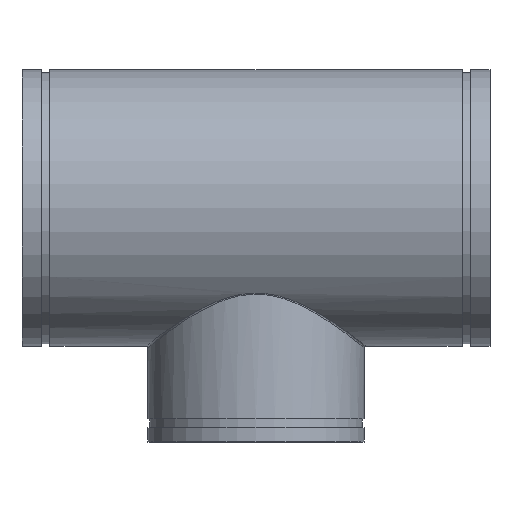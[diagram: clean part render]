
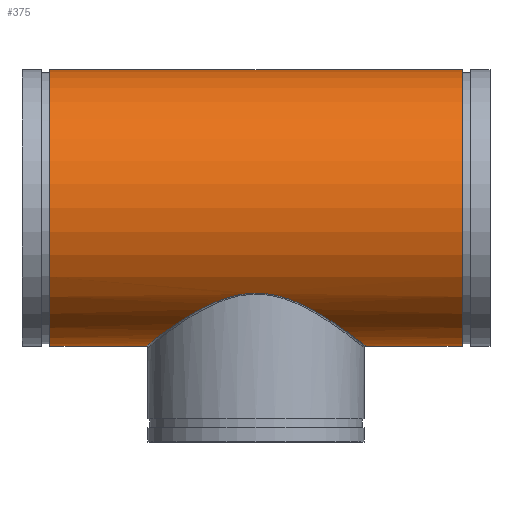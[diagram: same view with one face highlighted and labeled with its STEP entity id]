
A CAD part, top view. The second image highlights one B-rep face of the part: STEP entity #375.
In plain terms, the highlighted cylindrical face has radius 247.65 mm (diameter 495.3 mm), a full revolution.
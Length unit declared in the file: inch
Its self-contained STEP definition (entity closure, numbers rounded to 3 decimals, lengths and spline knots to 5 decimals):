
#54=FACE_BOUND('',#119,.T.);
#65=LINE('',#903,#76);
#76=VECTOR('',#483,9.75);
#87=CYLINDRICAL_SURFACE('',#415,9.75);
#98=FACE_OUTER_BOUND('',#118,.T.);
#118=EDGE_LOOP('',(#266,#267,#268,#269));
#119=EDGE_LOOP('',(#270));
#150=B_SPLINE_CURVE_WITH_KNOTS('',3,(#859,#860,#861,#862,#863,#864,#865,
#866,#867,#868,#869,#870,#871,#872,#873,#874,#875,#876,#877,#878,#879,#880,
#881,#882,#883,#884,#885,#886,#887,#888,#889,#890,#891,#892,#893,#894,#895,
#896,#897,#898),.UNSPECIFIED.,.T.,.F.,(4,1,1,1,1,1,1,1,1,1,1,1,1,1,1,1,
1,1,1,1,1,1,1,1,1,1,1,1,1,1,1,1,1,1,1,1,1,4),(-124.99692,-122.76484,
-120.53275,-116.06857,-111.6044,-107.14022,-101.18799,
-98.21187,-95.23575,-92.25963,-89.28352,
-86.3074,-83.33128,-77.37905,-74.40293,
-71.42681,-68.4507,-65.47458,-62.49846,
-59.52235,-56.54623,-53.57011,-50.59399,
-47.61788,-41.66564,-38.68952,-35.71341,
-32.73729,-29.76117,-26.78506,-23.80894,
-20.83282,-17.8567,-13.39253,-8.92835,
-4.46418,-2.23209,0.),.UNSPECIFIED.);
#154=CIRCLE('',#416,9.75);
#155=CIRCLE('',#417,9.75);
#182=VERTEX_POINT('',#811);
#185=VERTEX_POINT('',#900);
#186=VERTEX_POINT('',#902);
#219=EDGE_CURVE('',#182,#182,#150,.T.);
#220=EDGE_CURVE('',#185,#185,#154,.T.);
#221=EDGE_CURVE('',#185,#186,#65,.T.);
#222=EDGE_CURVE('',#186,#186,#155,.T.);
#266=ORIENTED_EDGE('',*,*,#220,.T.);
#267=ORIENTED_EDGE('',*,*,#221,.T.);
#268=ORIENTED_EDGE('',*,*,#222,.T.);
#269=ORIENTED_EDGE('',*,*,#221,.F.);
#270=ORIENTED_EDGE('',*,*,#219,.F.);
#375=ADVANCED_FACE('',(#98,#54),#87,.T.);
#415=AXIS2_PLACEMENT_3D('',#899,#479,#480);
#416=AXIS2_PLACEMENT_3D('',#901,#481,#482);
#417=AXIS2_PLACEMENT_3D('',#904,#484,#485);
#479=DIRECTION('center_axis',(-1.,0.,0.));
#480=DIRECTION('ref_axis',(0.,-1.,0.));
#481=DIRECTION('center_axis',(1.,0.,0.));
#482=DIRECTION('ref_axis',(0.,-1.,0.));
#483=DIRECTION('',(1.,0.,0.));
#484=DIRECTION('center_axis',(-1.,0.,0.));
#485=DIRECTION('ref_axis',(0.,-1.,0.));
#811=CARTESIAN_POINT('',(0.,-6.01104,-7.67658));
#859=CARTESIAN_POINT('Ctrl Pts',(0.,-6.01104,
-7.67658));
#860=CARTESIAN_POINT('Ctrl Pts',(0.30734,-6.01104,-7.67658));
#861=CARTESIAN_POINT('Ctrl Pts',(0.92157,-6.05757,-7.64048));
#862=CARTESIAN_POINT('Ctrl Pts',(2.10871,-6.31946,-7.42951));
#863=CARTESIAN_POINT('Ctrl Pts',(3.46305,-6.87574,-6.93989));
#864=CARTESIAN_POINT('Ctrl Pts',(4.86907,-7.67592,-6.05823));
#865=CARTESIAN_POINT('Ctrl Pts',(6.19199,-8.5588,-4.77702));
#866=CARTESIAN_POINT('Ctrl Pts',(7.09351,-9.22686,-3.3088));
#867=CARTESIAN_POINT('Ctrl Pts',(7.58958,-9.60589,-1.80496));
#868=CARTESIAN_POINT('Ctrl Pts',(7.7829,-9.75624,-0.61026));
#869=CARTESIAN_POINT('Ctrl Pts',(7.78318,-9.75624,0.61002));
#870=CARTESIAN_POINT('Ctrl Pts',(7.58925,-9.60591,1.80519));
#871=CARTESIAN_POINT('Ctrl Pts',(7.21818,-9.32164,2.93204));
#872=CARTESIAN_POINT('Ctrl Pts',(6.51664,-8.79944,4.30565));
#873=CARTESIAN_POINT('Ctrl Pts',(5.5586,-8.12148,5.45292));
#874=CARTESIAN_POINT('Ctrl Pts',(4.4046,-7.40725,6.35726));
#875=CARTESIAN_POINT('Ctrl Pts',(3.44262,-6.88759,6.91281));
#876=CARTESIAN_POINT('Ctrl Pts',(2.38443,-6.42901,7.33658));
#877=CARTESIAN_POINT('Ctrl Pts',(1.22893,-6.09534,7.61163));
#878=CARTESIAN_POINT('Ctrl Pts',(0.00001,-5.96867,
7.70913));
#879=CARTESIAN_POINT('Ctrl Pts',(-1.22876,-6.09527,7.61167));
#880=CARTESIAN_POINT('Ctrl Pts',(-2.38433,-6.42901,7.3366));
#881=CARTESIAN_POINT('Ctrl Pts',(-3.44256,-6.88756,6.91282));
#882=CARTESIAN_POINT('Ctrl Pts',(-4.40438,-7.4071,6.35743));
#883=CARTESIAN_POINT('Ctrl Pts',(-5.55853,-8.12147,5.45297));
#884=CARTESIAN_POINT('Ctrl Pts',(-6.51666,-8.7994,4.3057));
#885=CARTESIAN_POINT('Ctrl Pts',(-7.2181,-9.32162,2.93212));
#886=CARTESIAN_POINT('Ctrl Pts',(-7.58927,-9.60589,1.80533));
#887=CARTESIAN_POINT('Ctrl Pts',(-7.78309,-9.75623,0.61004));
#888=CARTESIAN_POINT('Ctrl Pts',(-7.78302,-9.75625,-0.60997));
#889=CARTESIAN_POINT('Ctrl Pts',(-7.58945,-9.60591,-1.80515));
#890=CARTESIAN_POINT('Ctrl Pts',(-7.21784,-9.32163,-2.93225));
#891=CARTESIAN_POINT('Ctrl Pts',(-6.6925,-8.92997,-3.96199));
#892=CARTESIAN_POINT('Ctrl Pts',(-5.92774,-8.38223,-5.03261));
#893=CARTESIAN_POINT('Ctrl Pts',(-4.86891,-7.67596,-6.0586));
#894=CARTESIAN_POINT('Ctrl Pts',(-3.46332,-6.87581,-6.93957));
#895=CARTESIAN_POINT('Ctrl Pts',(-2.10858,-6.31942,-7.42966));
#896=CARTESIAN_POINT('Ctrl Pts',(-0.92163,-6.05758,-7.64041));
#897=CARTESIAN_POINT('Ctrl Pts',(-0.30734,-6.01104,-7.67658));
#898=CARTESIAN_POINT('Ctrl Pts',(0.,-6.01104,
-7.67658));
#899=CARTESIAN_POINT('Origin',(16.5,0.,0.));
#900=CARTESIAN_POINT('',(-14.535,9.75,0.));
#901=CARTESIAN_POINT('Origin',(-14.535,0.,0.));
#902=CARTESIAN_POINT('',(14.535,9.75,0.));
#903=CARTESIAN_POINT('',(16.5,9.75,0.));
#904=CARTESIAN_POINT('Origin',(14.535,0.,0.));
